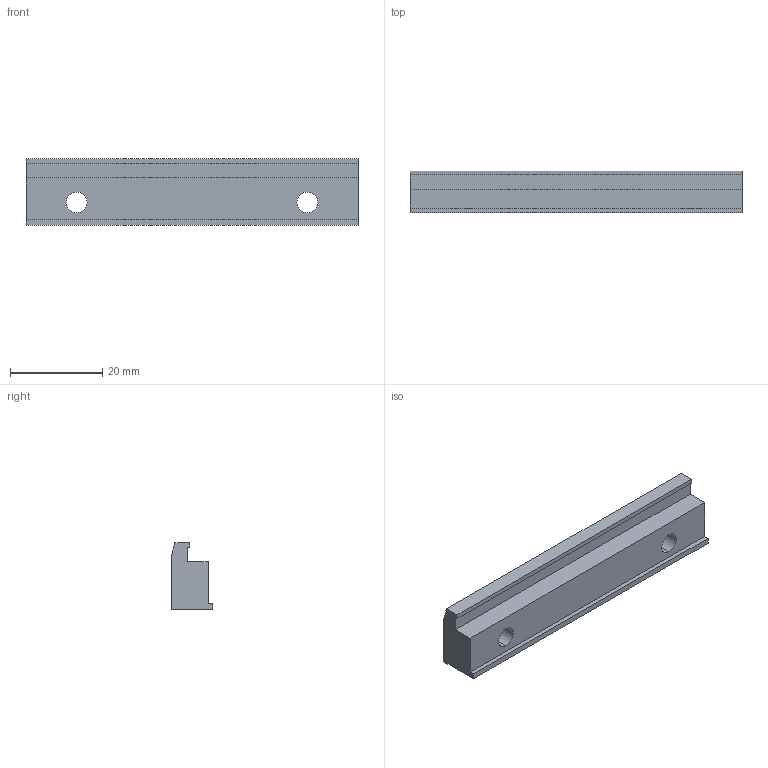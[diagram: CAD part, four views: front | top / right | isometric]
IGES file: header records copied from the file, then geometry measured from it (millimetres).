
Start section:  PTC IGES file: R037531032\r037531032.iges
Global section: file name: R037531032\r037531032.iges; native system: Creo Parametric by PTC Inc.; preprocessor: 2023092; author: THD3HC; organization: Unknown; date: 20240711.174724; units: millimetre
Bounding box: 72 x 9 x 14.5 mm (x, y, z)
Surface area: 3860.7 mm2 (no closed solid volume)
Topology: 0 solids, 0 shells, 23 faces, 114 edges, 114 vertices
Faces by surface type: bspline 15, revolution 8
